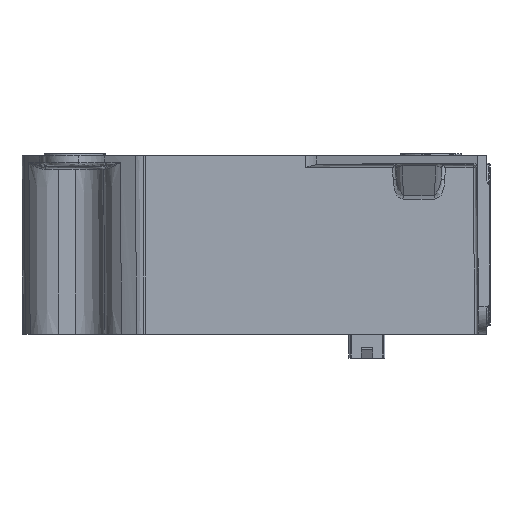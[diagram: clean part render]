
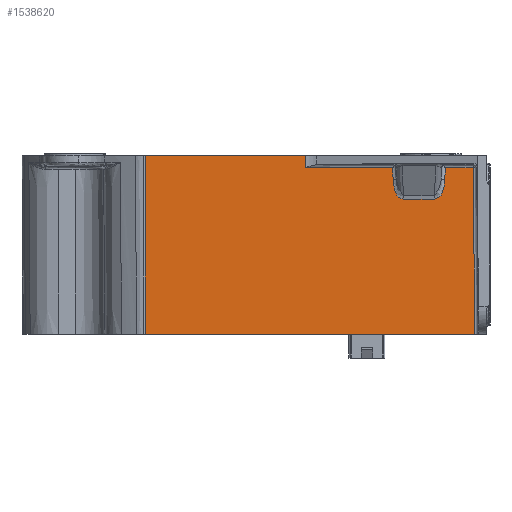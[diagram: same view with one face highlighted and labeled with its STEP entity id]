
A CAD part, left-side view. The second image highlights one B-rep face of the part: STEP entity #1538620.
In plain terms, the highlighted planar face has unit normal (-1, 0, 0).
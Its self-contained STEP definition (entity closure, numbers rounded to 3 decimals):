
#905570=CARTESIAN_POINT('',(-60.366,-165.239,
-623.516));
#905580=VERTEX_POINT('',#905570);
#905610=CARTESIAN_POINT('',(-60.366,-165.239,
-623.516));
#905620=DIRECTION('',(0.,-0.009,
-1.));
#905630=VECTOR('',#905620,1.);
#905640=LINE('',#905610,#905630);
#905650=CARTESIAN_POINT('',(-60.366,-164.82,
-575.504));
#905660=VERTEX_POINT('',#905650);
#905670=EDGE_CURVE('',#905660,#905580,#905640,.T.);
#918480=CARTESIAN_POINT('',(-60.366,-141.708,
-578.827));
#918490=VERTEX_POINT('',#918480);
#918720=CARTESIAN_POINT('',(-60.366,-144.712,
-584.548));
#918730=VERTEX_POINT('',#918720);
#918760=CARTESIAN_POINT('',(-60.366,-141.708,
-578.827));
#918770=CARTESIAN_POINT('',(-60.366,-141.77,
-580.013));
#918780=CARTESIAN_POINT('',(-60.366,-141.908,
-581.395));
#918790=CARTESIAN_POINT('',(-60.366,-142.197,
-582.755));
#918800=CARTESIAN_POINT('',(-60.366,-142.711,
-583.878));
#918810=CARTESIAN_POINT('',(-60.366,-143.524,
-584.548));
#918820=CARTESIAN_POINT('',(-60.366,-144.712,
-584.548));
#918830=B_SPLINE_CURVE_WITH_KNOTS('',6,(#918760,#918770,#918780,#918790,
#918800,#918810,#918820),.UNSPECIFIED.,.F.,.F.,(7,7),(0.,1.),
.UNSPECIFIED.);
#918840=EDGE_CURVE('',#918490,#918730,#918830,.T.);
#919110=CARTESIAN_POINT('',(-60.366,-153.593,
-584.548));
#919120=VERTEX_POINT('',#919110);
#919150=CARTESIAN_POINT('',(-60.366,-79.388,
-584.548));
#919160=DIRECTION('',(0.,1.,0.));
#919170=VECTOR('',#919160,1.);
#919180=LINE('',#919150,#919170);
#919190=EDGE_CURVE('',#919120,#918730,#919180,.T.);
#920660=CARTESIAN_POINT('',(-60.366,-156.597,
-578.827));
#920670=VERTEX_POINT('',#920660);
#920700=CARTESIAN_POINT('',(-60.366,-153.593,
-584.548));
#920710=CARTESIAN_POINT('',(-60.366,-154.781,
-584.548));
#920720=CARTESIAN_POINT('',(-60.366,-155.594,
-583.878));
#920730=CARTESIAN_POINT('',(-60.366,-156.108,
-582.755));
#920740=CARTESIAN_POINT('',(-60.366,-156.397,
-581.395));
#920750=CARTESIAN_POINT('',(-60.366,-156.535,
-580.013));
#920760=CARTESIAN_POINT('',(-60.366,-156.597,
-578.827));
#920770=B_SPLINE_CURVE_WITH_KNOTS('',6,(#920700,#920710,#920720,#920730,
#920740,#920750,#920760),.UNSPECIFIED.,.F.,.F.,(7,7),(0.,1.),
.UNSPECIFIED.);
#920780=EDGE_CURVE('',#919120,#920670,#920770,.T.);
#923180=CARTESIAN_POINT('',(-60.366,-156.771,
-575.504));
#923190=VERTEX_POINT('',#923180);
#923220=CARTESIAN_POINT('',(-60.366,-154.255,
-623.516));
#923230=DIRECTION('',(0.,0.052,
-0.999));
#923240=VECTOR('',#923230,1.);
#923250=LINE('',#923220,#923240);
#923260=EDGE_CURVE('',#923190,#920670,#923250,.T.);
#928170=CARTESIAN_POINT('',(-60.366,-116.308,
-575.504));
#928180=VERTEX_POINT('',#928170);
#928440=CARTESIAN_POINT('',(-60.366,-141.534,
-575.504));
#928450=VERTEX_POINT('',#928440);
#928480=CARTESIAN_POINT('',(-60.366,-79.388,
-575.504));
#928490=DIRECTION('',(0.,1.,0.));
#928500=VECTOR('',#928490,1.);
#928510=LINE('',#928480,#928500);
#928520=EDGE_CURVE('',#928450,#928180,#928510,.T.);
#928630=CARTESIAN_POINT('',(-60.366,-144.05,
-623.516));
#928640=DIRECTION('',(0.,0.052,
0.999));
#928650=VECTOR('',#928640,1.);
#928660=LINE('',#928630,#928650);
#928670=EDGE_CURVE('',#918490,#928450,#928660,.T.);
#1377640=CARTESIAN_POINT('',(-60.366,-79.388,
-575.504));
#1377650=DIRECTION('',(0.,1.,0.));
#1377660=VECTOR('',#1377650,1.);
#1377670=LINE('',#1377640,#1377660);
#1377680=EDGE_CURVE('',#905660,#923190,#1377670,.T.);
#1379470=CARTESIAN_POINT('',(-60.366,-116.308,
-572.016));
#1379480=VERTEX_POINT('',#1379470);
#1379530=CARTESIAN_POINT('',(-60.366,-116.308,
-623.516));
#1379540=DIRECTION('',(0.,0.,1.));
#1379550=VECTOR('',#1379540,1.);
#1379560=LINE('',#1379530,#1379550);
#1379570=EDGE_CURVE('',#928180,#1379480,#1379560,.T.);
#1385500=CARTESIAN_POINT('',(-60.366,-70.202,
-623.516));
#1385510=VERTEX_POINT('',#1385500);
#1385540=CARTESIAN_POINT('',(-60.366,-79.388,
-623.516));
#1385550=DIRECTION('',(0.,-1.,0.))
;
#1385560=VECTOR('',#1385550,1.);
#1385570=LINE('',#1385540,#1385560);
#1385580=EDGE_CURVE('',#1385510,#905580,#1385570,.T.);
#1524610=CARTESIAN_POINT('',(-60.366,-70.202,
-572.016));
#1524620=VERTEX_POINT('',#1524610);
#1532000=CARTESIAN_POINT('',(-60.366,-70.202,
-623.516));
#1532010=DIRECTION('',(0.,0.,1.));
#1532020=VECTOR('',#1532010,1.);
#1532030=LINE('',#1532000,#1532020);
#1532040=EDGE_CURVE('',#1385510,#1524620,#1532030,.T.);
#1538380=CARTESIAN_POINT('',(-60.366,-48.629,
-623.516));
#1538390=DIRECTION('',(1.,0.,0.));
#1538400=DIRECTION('',(0.,1.,0.));
#1538410=AXIS2_PLACEMENT_3D('',#1538380,#1538390,#1538400);
#1538420=PLANE('',#1538410);
#1538430=ORIENTED_EDGE('',*,*,#905670,.F.);
#1538440=ORIENTED_EDGE('',*,*,#1385580,.T.);
#1538450=ORIENTED_EDGE('',*,*,#1532040,.F.);
#1538460=CARTESIAN_POINT('',(-60.366,-79.388,
-572.016));
#1538470=DIRECTION('',(0.,1.,0.));
#1538480=VECTOR('',#1538470,1.);
#1538490=LINE('',#1538460,#1538480);
#1538500=EDGE_CURVE('',#1379480,#1524620,#1538490,.T.);
#1538510=ORIENTED_EDGE('',*,*,#1538500,.T.);
#1538520=ORIENTED_EDGE('',*,*,#1379570,.T.);
#1538530=ORIENTED_EDGE('',*,*,#928520,.T.);
#1538540=ORIENTED_EDGE('',*,*,#928670,.T.);
#1538550=ORIENTED_EDGE('',*,*,#918840,.F.);
#1538560=ORIENTED_EDGE('',*,*,#919190,.T.);
#1538570=ORIENTED_EDGE('',*,*,#920780,.F.);
#1538580=ORIENTED_EDGE('',*,*,#923260,.T.);
#1538590=ORIENTED_EDGE('',*,*,#1377680,.T.);
#1538600=EDGE_LOOP('',(#1538590,#1538580,#1538570,#1538560,#1538550,
#1538540,#1538530,#1538520,#1538510,#1538450,#1538440,#1538430));
#1538610=FACE_OUTER_BOUND('',#1538600,.T.);
#1538620=ADVANCED_FACE('',(#1538610),#1538420,.F.);
